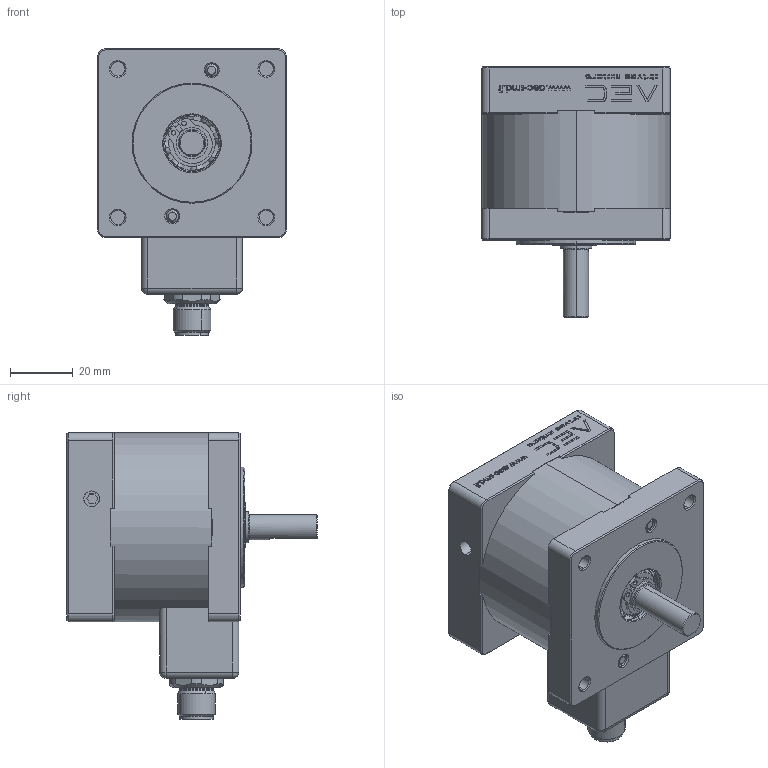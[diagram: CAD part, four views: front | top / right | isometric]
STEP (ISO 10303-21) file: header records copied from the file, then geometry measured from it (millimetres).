
FILE_DESCRIPTION (( 'STEP AP214' ), '1' );
FILE_NAME ('EB24-080-080-C.STEP', '2025-05-10T07:32:09', ( '' ), ( '' ), 'SwSTEP 2.0', 'SolidWorks 2019', '' );
FILE_SCHEMA (( 'AUTOMOTIVE_DESIGN' ));
Length unit declared in the file: millimetre
Products named in the file (1): EB24-080-080-C
Bounding box: 60 x 79.5 x 91 mm (x, y, z)
Volume: 167626.8 mm3; surface area: 76006.4 mm2
Topology: 14 solids, 17 shells, 1290 faces, 3359 edges, 2164 vertices
Faces by surface type: plane 534, cylinder 323, bspline 174, cone 143, sphere 68, torus 48
Entity records: 64044 total; most frequent: CARTESIAN_POINT 18876, ORIENTED_EDGE 6662, DIRECTION 5942, EDGE_CURVE 3331, VERTEX_POINT 2164, AXIS2_PLACEMENT_3D 2114, LINE 1714, VECTOR 1714
